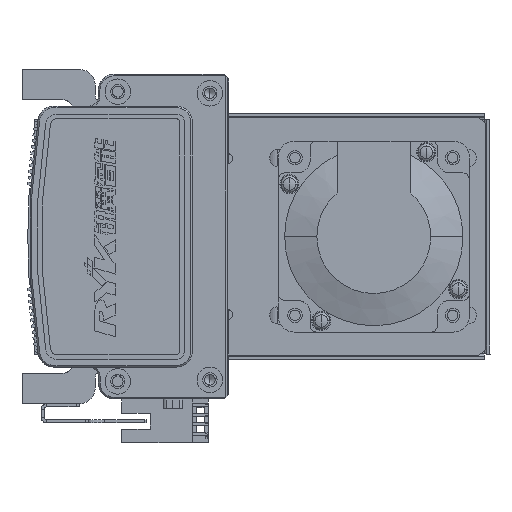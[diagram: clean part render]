
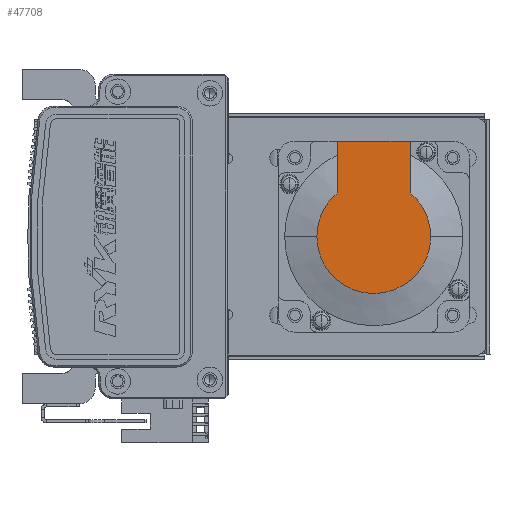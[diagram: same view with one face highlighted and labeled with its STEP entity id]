
A CAD part, left-side view. The second image highlights one B-rep face of the part: STEP entity #47708.
In plain terms, the highlighted planar face has unit normal (-1, 0, 0).
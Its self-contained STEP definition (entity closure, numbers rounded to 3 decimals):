
#2546 = CARTESIAN_POINT ( 'NONE',  ( -99., 13.735, 11.45 ) ) ;
#2560 = CARTESIAN_POINT ( 'NONE',  ( -99., 0., 17.881 ) ) ;
#2600 = CARTESIAN_POINT ( 'NONE',  ( -99., 0., -17.881 ) ) ;
#2757 = CARTESIAN_POINT ( 'NONE',  ( -99., 30., 11.45 ) ) ;
#2786 = CARTESIAN_POINT ( 'NONE',  ( -99., 13.735, -11.45 ) ) ;
#2796 = CARTESIAN_POINT ( 'NONE',  ( -99., 30., -11.45 ) ) ;
#15330 = AXIS2_PLACEMENT_3D ( 'NONE', #44138, #44159, #44143 ) ;
#15353 = AXIS2_PLACEMENT_3D ( 'NONE', #46474, #46471, #46476 ) ;
#42787 = EDGE_CURVE ( 'NONE', #72876, #72892, #44878, .T. ) ;
#42817 = EDGE_CURVE ( 'NONE', #72892, #72748, #45084, .T. ) ;
#44138 = CARTESIAN_POINT ( 'NONE',  ( -99., 0., 0. ) ) ;
#44143 = DIRECTION ( 'NONE',  ( 0., 0., -1. ) ) ;
#44159 = DIRECTION ( 'NONE',  ( -1., 0., 0. ) ) ;
#44878 = CIRCLE ( 'NONE', #15330, 17.881 ) ;
#45084 = CIRCLE ( 'NONE', #15353, 17.881 ) ;
#46354 = FACE_OUTER_BOUND ( 'NONE', #49867, .T. ) ;
#46471 = DIRECTION ( 'NONE',  ( -1., 0., 0. ) ) ;
#46474 = CARTESIAN_POINT ( 'NONE',  ( -99., 0., 0. ) ) ;
#46476 = DIRECTION ( 'NONE',  ( 0., 0., -1. ) ) ;
#47708 = ADVANCED_FACE ( 'NONE', ( #46354 ), #49278, .T. ) ;
#49278 = PLANE ( 'NONE',  #50300 ) ;
#49280 = DIRECTION ( 'NONE',  ( 0., 0., 1. ) ) ;
#49288 = CARTESIAN_POINT ( 'NONE',  ( -99., -8.941, 0. ) ) ;
#49313 = DIRECTION ( 'NONE',  ( -1., 0., 0. ) ) ;
#49867 = EDGE_LOOP ( 'NONE', ( #72101, #72135, #72117, #72209, #72233, #72059 ) ) ;
#50300 = AXIS2_PLACEMENT_3D ( 'NONE', #49288, #49313, #49280 ) ;
#51811 = AXIS2_PLACEMENT_3D ( 'NONE', #63938, #63881, #63949 ) ;
#57267 = EDGE_CURVE ( 'NONE', #73185, #72876, #61545, .T. ) ;
#57312 = EDGE_CURVE ( 'NONE', #73275, #73207, #61677, .T. ) ;
#57320 = EDGE_CURVE ( 'NONE', #73207, #72748, #61755, .T. ) ;
#57342 = EDGE_CURVE ( 'NONE', #73275, #73185, #61881, .T. ) ;
#61545 = CIRCLE ( 'NONE', #51811, 17.881 ) ;
#61645 = VECTOR ( 'NONE', #64188, 1000. ) ;
#61677 = LINE ( 'NONE', #64238, #61707 ) ;
#61707 = VECTOR ( 'NONE', #64242, 1000. ) ;
#61755 = LINE ( 'NONE', #64160, #61645 ) ;
#61865 = VECTOR ( 'NONE', #64327, 1000. ) ;
#61881 = LINE ( 'NONE', #64324, #61865 ) ;
#63881 = DIRECTION ( 'NONE',  ( -1., 0., 0. ) ) ;
#63938 = CARTESIAN_POINT ( 'NONE',  ( -99., 0., 0. ) ) ;
#63949 = DIRECTION ( 'NONE',  ( 0., 0., -1. ) ) ;
#64160 = CARTESIAN_POINT ( 'NONE',  ( -99., 0., 11.45 ) ) ;
#64188 = DIRECTION ( 'NONE',  ( 0., -1., 0. ) ) ;
#64238 = CARTESIAN_POINT ( 'NONE',  ( -99., 30., 25. ) ) ;
#64242 = DIRECTION ( 'NONE',  ( 0., 0., 1. ) ) ;
#64324 = CARTESIAN_POINT ( 'NONE',  ( -99., -8.941, -11.45 ) ) ;
#64327 = DIRECTION ( 'NONE',  ( 0., -1., 0. ) ) ;
#72059 = ORIENTED_EDGE ( 'NONE', *, *, #57312, .F. ) ;
#72101 = ORIENTED_EDGE ( 'NONE', *, *, #57342, .T. ) ;
#72117 = ORIENTED_EDGE ( 'NONE', *, *, #42787, .T. ) ;
#72135 = ORIENTED_EDGE ( 'NONE', *, *, #57267, .T. ) ;
#72209 = ORIENTED_EDGE ( 'NONE', *, *, #42817, .T. ) ;
#72233 = ORIENTED_EDGE ( 'NONE', *, *, #57320, .F. ) ;
#72748 = VERTEX_POINT ( 'NONE', #2546 ) ;
#72876 = VERTEX_POINT ( 'NONE', #2600 ) ;
#72892 = VERTEX_POINT ( 'NONE', #2560 ) ;
#73185 = VERTEX_POINT ( 'NONE', #2786 ) ;
#73207 = VERTEX_POINT ( 'NONE', #2757 ) ;
#73275 = VERTEX_POINT ( 'NONE', #2796 ) ;
